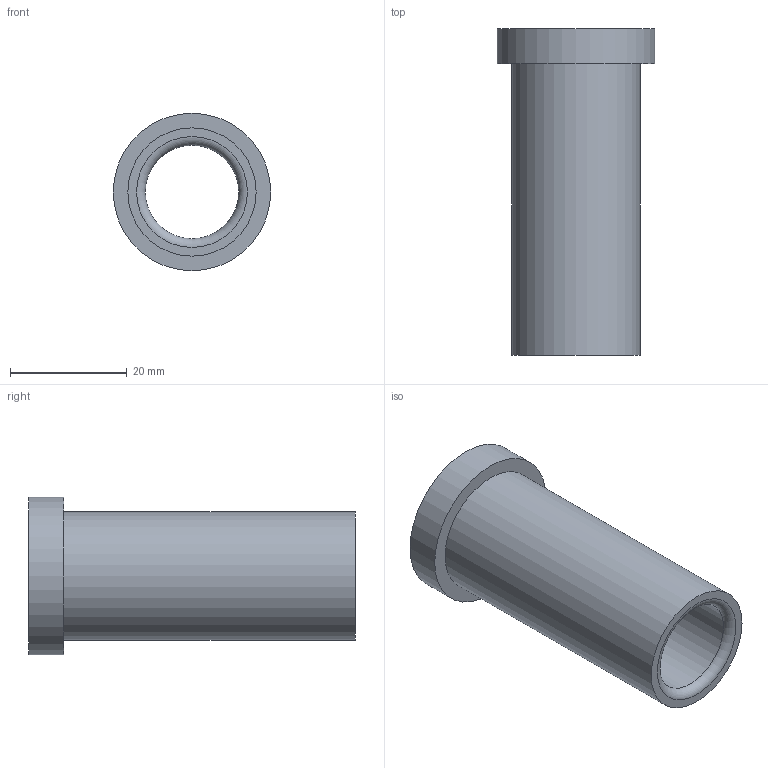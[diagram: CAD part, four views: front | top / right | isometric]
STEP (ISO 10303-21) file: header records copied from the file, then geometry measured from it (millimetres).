
FILE_DESCRIPTION(/* description */ ('STEP AP214'),/* implementation_level */ '2;1');
FILE_NAME(/* name */ '03_12_17846',/* time_stamp */ '2023-06-15T11:35:28+02:00',/* author */ ('License CC BY-ND 4.0'),/* organization */ ('CADENAS'),/* preprocessor_version */ 'ST-DEVELOPER v19.3',/* originating_system */ 'PARTsolutions',/* authorisation */ ' ');
FILE_SCHEMA (('AUTOMOTIVE_DESIGN {1 0 10303 214 3 1 1}'));
Length unit declared in the file: millimetre
Products named in the file (1): VA_Bushing_17846
Bounding box: 27 x 56 x 27 mm (x, y, z)
Volume: 10959 mm3; surface area: 7479.7 mm2
Topology: 1 solids, 1 shells, 10 faces, 16 edges, 10 vertices
Faces by surface type: cylinder 4, plane 4, torus 2
Full cylindrical faces by diameter (mm): 16 x1, 16.6 x1, 22 x1, 27 x1
Entity records: 302 total; most frequent: DIRECTION 42, CARTESIAN_POINT 31, AXIS2_PLACEMENT_3D 21, ORIENTED_EDGE 20, EDGE_LOOP 20, FACE_BOUND 20, EDGE_CURVE 10, VERTEX_POINT 10
